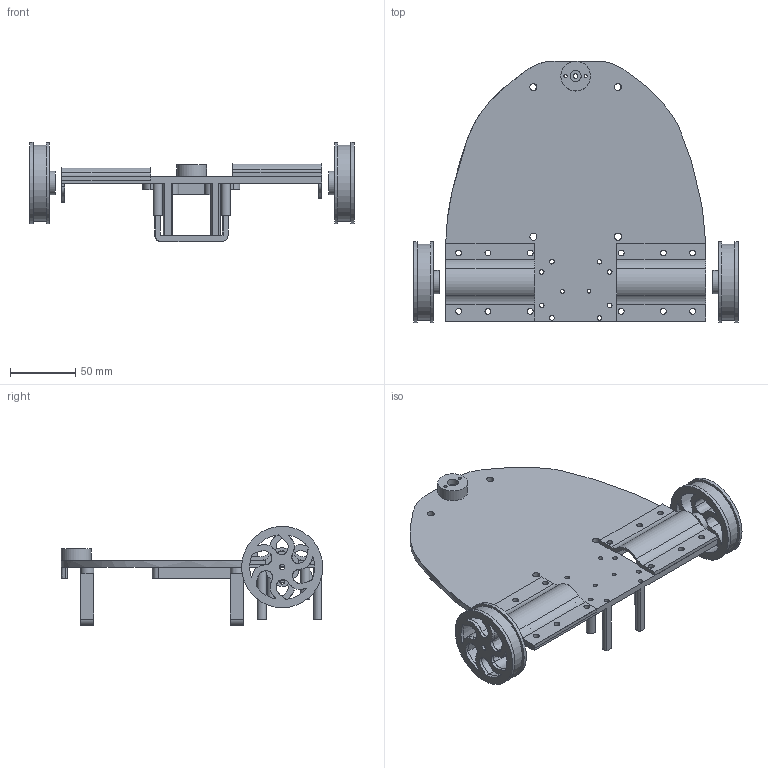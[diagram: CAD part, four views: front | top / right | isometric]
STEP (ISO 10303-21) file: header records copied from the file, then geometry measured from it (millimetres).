
FILE_DESCRIPTION(/* description */ (''),/* implementation_level */ '2;1');
FILE_NAME(/* name */ '3k-zlozenie.step',/* time_stamp */ '2025-12-15T15:45:34+01:00',/* author */ (''),/* organization */ (''),/* preprocessor_version */ 'ST-DEVELOPER v20.1',/* originating_system */ 'Autodesk Translation Framework v14.21.0.0',/* authorisation */ '');
FILE_SCHEMA (('AUTOMOTIVE_DESIGN { 1 0 10303 214 3 1 1 }'));
Length unit declared in the file: millimetre
Products named in the file (1): 3k-zlozenie
Bounding box: 249.5 x 201.25 x 76.25 mm (x, y, z)
Volume: 258548.8 mm3; surface area: 153298.6 mm2
Topology: 10 solids, 10 shells, 479 faces, 1276 edges, 826 vertices
Faces by surface type: cylinder 182, plane 169, bspline 128
Full cylindrical faces by diameter (mm): 2.5 x4, 3 x2, 3.5 x14, 4.3 x4, 4.5 x24, 5.5 x8, 7 x6, 7.5 x2, 8.5 x1, 9 x2, 18 x2, 22.9 x1, 58.5 x2, 62.5 x4
Entity records: 23200 total; most frequent: CARTESIAN_POINT 11752, ORIENTED_EDGE 2552, DIRECTION 2034, EDGE_CURVE 1276, VERTEX_POINT 826, AXIS2_PLACEMENT_3D 732, EDGE_LOOP 664, LINE 570
